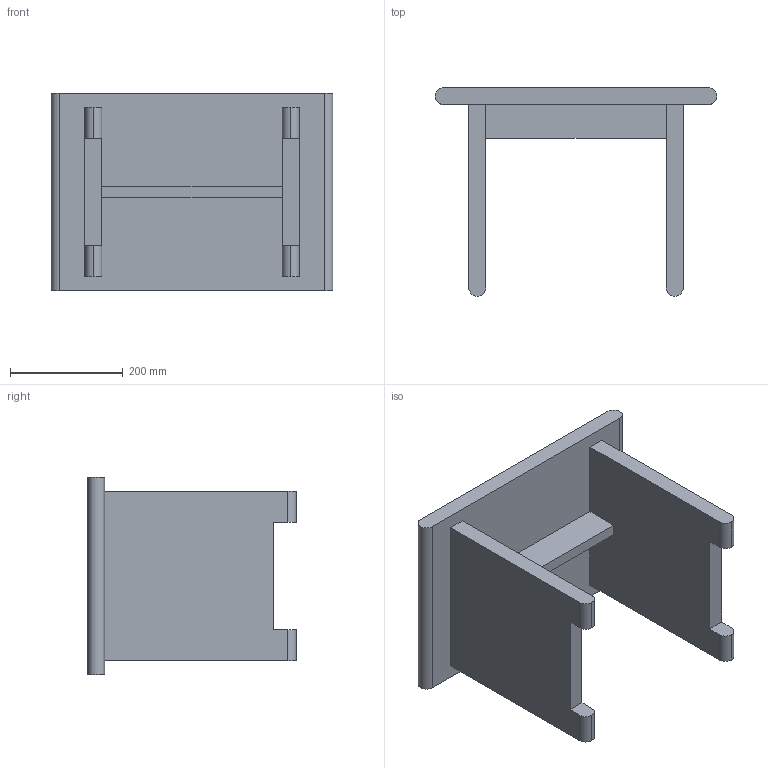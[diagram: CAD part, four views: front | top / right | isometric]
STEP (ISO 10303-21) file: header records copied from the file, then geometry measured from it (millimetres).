
FILE_DESCRIPTION (( 'STEP AP203' ), '1' );
FILE_NAME ('FRP50.STEP', '2021-06-10T09:25:52', ( '' ), ( '' ), 'SwSTEP 2.0', 'SolidWorks 2021', '' );
FILE_SCHEMA (( 'CONFIG_CONTROL_DESIGN' ));
Length unit declared in the file: millimetre
Products named in the file (1): FRP50
Bounding box: 500 x 370 x 350 mm (x, y, z)
Volume: 11209154.8 mm3; surface area: 847195.1 mm2
Topology: 1 solids, 1 shells, 31 faces, 84 edges, 56 vertices
Faces by surface type: plane 21, cylinder 10
Entity records: 1055 total; most frequent: CARTESIAN_POINT 172, ORIENTED_EDGE 168, DIRECTION 168, EDGE_CURVE 84, LINE 64, VECTOR 64, VERTEX_POINT 56, AXIS2_PLACEMENT_3D 52
